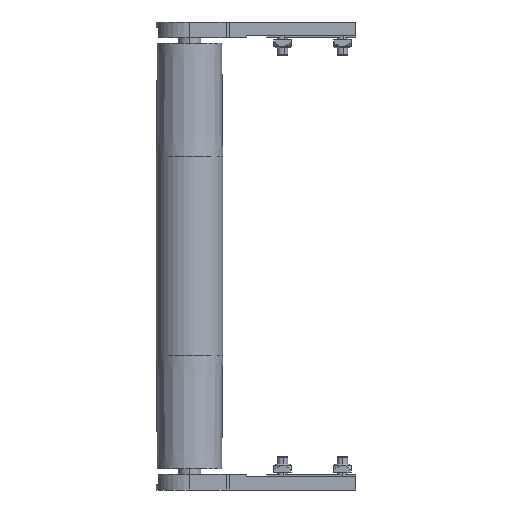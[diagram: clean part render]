
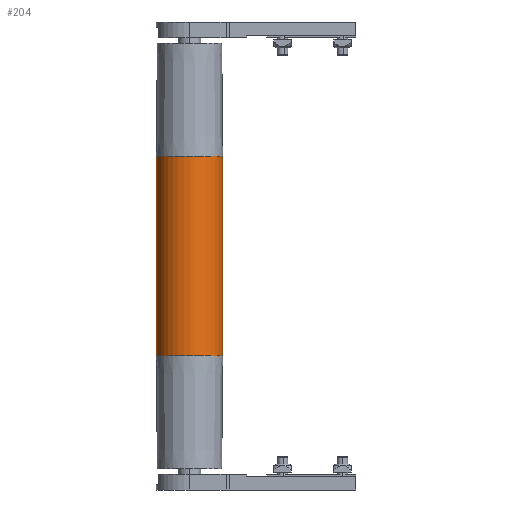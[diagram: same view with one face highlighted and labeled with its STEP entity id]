
A CAD part, front view. The second image highlights one B-rep face of the part: STEP entity #204.
In plain terms, the highlighted cylindrical face has radius 24.9 mm (diameter 49.8 mm), a partial arc.
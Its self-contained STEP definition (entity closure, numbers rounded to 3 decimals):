
#204 = ADVANCED_FACE ( 'NONE', ( #3051 ), #5831, .T. ) ;
#215 = CARTESIAN_POINT ( 'NONE',  ( -75., 0., 24.9 ) ) ;
#234 = AXIS2_PLACEMENT_3D ( 'NONE', #834, #4927, #5540 ) ;
#537 = DIRECTION ( 'NONE',  ( 0., 0., 1. ) ) ;
#744 = EDGE_LOOP ( 'NONE', ( #7378, #3790, #6102, #5421 ) ) ;
#790 = CIRCLE ( 'NONE', #6615, 24.9 ) ;
#834 = CARTESIAN_POINT ( 'NONE',  ( 75., 0., 0. ) ) ;
#913 = VERTEX_POINT ( 'NONE', #215 ) ;
#1338 = DIRECTION ( 'NONE',  ( -1., 0., 0. ) ) ;
#1692 = DIRECTION ( 'NONE',  ( -1., 0., 0. ) ) ;
#2086 = DIRECTION ( 'NONE',  ( 0., 0., 1. ) ) ;
#2254 = CARTESIAN_POINT ( 'NONE',  ( -160., 0., 0. ) ) ;
#3051 = FACE_OUTER_BOUND ( 'NONE', #744, .T. ) ;
#3325 = DIRECTION ( 'NONE',  ( -1., 0., 0. ) ) ;
#3739 = CIRCLE ( 'NONE', #234, 24.9 ) ;
#3790 = ORIENTED_EDGE ( 'NONE', *, *, #4415, .T. ) ;
#3890 = CARTESIAN_POINT ( 'NONE',  ( 75., 0., -24.9 ) ) ;
#4083 = LINE ( 'NONE', #6430, #6604 ) ;
#4305 = CARTESIAN_POINT ( 'NONE',  ( -75., 0., -24.9 ) ) ;
#4328 = DIRECTION ( 'NONE',  ( -1., 0., 0. ) ) ;
#4415 = EDGE_CURVE ( 'NONE', #5795, #5085, #3739, .T. ) ;
#4536 = CARTESIAN_POINT ( 'NONE',  ( 75., 0., 24.9 ) ) ;
#4837 = EDGE_CURVE ( 'NONE', #6642, #913, #790, .T. ) ;
#4927 = DIRECTION ( 'NONE',  ( -1., 0., 0. ) ) ;
#5085 = VERTEX_POINT ( 'NONE', #4536 ) ;
#5228 = EDGE_CURVE ( 'NONE', #5085, #913, #4083, .T. ) ;
#5421 = ORIENTED_EDGE ( 'NONE', *, *, #4837, .F. ) ;
#5540 = DIRECTION ( 'NONE',  ( 0., 0., 1. ) ) ;
#5685 = AXIS2_PLACEMENT_3D ( 'NONE', #2254, #1692, #537 ) ;
#5795 = VERTEX_POINT ( 'NONE', #3890 ) ;
#5831 = CYLINDRICAL_SURFACE ( 'NONE', #5685, 24.9 ) ;
#6041 = LINE ( 'NONE', #6806, #6233 ) ;
#6102 = ORIENTED_EDGE ( 'NONE', *, *, #5228, .T. ) ;
#6233 = VECTOR ( 'NONE', #4328, 1000. ) ;
#6430 = CARTESIAN_POINT ( 'NONE',  ( -160., 0., 24.9 ) ) ;
#6604 = VECTOR ( 'NONE', #1338, 1000. ) ;
#6615 = AXIS2_PLACEMENT_3D ( 'NONE', #7444, #3325, #2086 ) ;
#6642 = VERTEX_POINT ( 'NONE', #4305 ) ;
#6806 = CARTESIAN_POINT ( 'NONE',  ( -160., 0., -24.9 ) ) ;
#7378 = ORIENTED_EDGE ( 'NONE', *, *, #7446, .F. ) ;
#7444 = CARTESIAN_POINT ( 'NONE',  ( -75., 0., 0. ) ) ;
#7446 = EDGE_CURVE ( 'NONE', #5795, #6642, #6041, .T. ) ;
